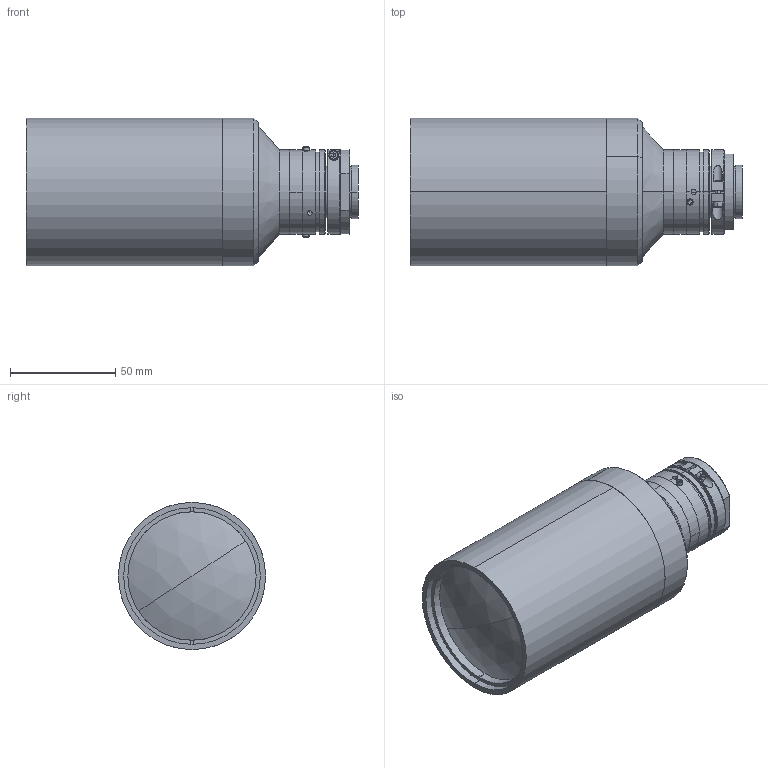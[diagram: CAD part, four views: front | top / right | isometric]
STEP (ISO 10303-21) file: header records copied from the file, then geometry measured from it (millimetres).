
FILE_DESCRIPTION (( 'STEP AP203' ), '1' );
FILE_NAME ('XF-PTL04511-C.STEP', '2020-05-09T01:22:21', ( 'puyufan' ), ( '' ), 'SwSTEP 2.0', 'SolidWorks 2014', '' );
FILE_SCHEMA (( 'CONFIG_CONTROL_DESIGN' ));
Length unit declared in the file: millimetre
Products named in the file (1): XF-PTL04511-C
Bounding box: 157.86 x 70 x 70 mm (x, y, z)
Surface area: 49041.1 mm2 (no closed solid volume)
Topology: 0 solids, 17 shells, 141 faces, 379 edges, 260 vertices
Faces by surface type: plane 55, cylinder 54, cone 18, torus 10, sphere 4
Entity records: 4846 total; most frequent: CARTESIAN_POINT 1173, DIRECTION 809, ORIENTED_EDGE 640, EDGE_CURVE 377, AXIS2_PLACEMENT_3D 320, VERTEX_POINT 260, CIRCLE 178, EDGE_LOOP 171
